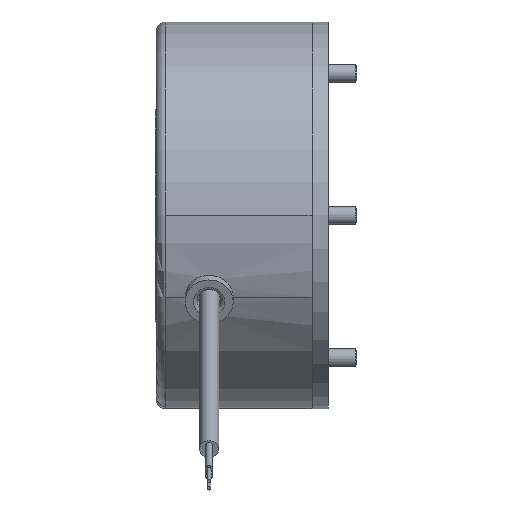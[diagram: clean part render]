
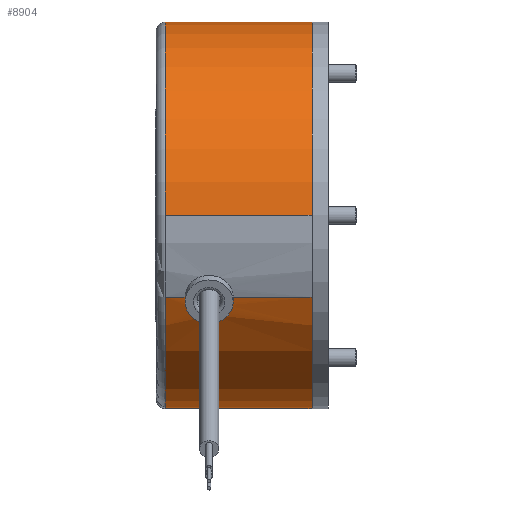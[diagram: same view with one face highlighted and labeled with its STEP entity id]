
A CAD part, front view. The second image highlights one B-rep face of the part: STEP entity #8904.
In plain terms, the highlighted cylindrical face has radius 53 mm (diameter 106 mm), a partial arc.
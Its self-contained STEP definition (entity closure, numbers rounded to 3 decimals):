
#309=B_SPLINE_CURVE_WITH_KNOTS('',3,(#15459,#15460,#15461,#15462,#15463,
#15464,#15465,#15466,#15467,#15468,#15469,#15470,#15471),.UNSPECIFIED.,
 .F.,.F.,(4,1,1,1,1,1,1,1,1,1,4),(-1.74,-1.492,-1.326,
-0.995,-0.746,-0.622,-0.497,
-0.373,-0.249,-0.124,0.),
 .UNSPECIFIED.);
#551=CYLINDRICAL_SURFACE('',#9701,53.);
#1023=CIRCLE('',#9702,53.);
#1024=CIRCLE('',#9703,53.);
#1025=CIRCLE('',#9704,53.);
#1026=CIRCLE('',#9705,53.);
#1027=CIRCLE('',#9706,53.);
#1629=FACE_OUTER_BOUND('',#2126,.T.);
#2126=EDGE_LOOP('',(#6963,#6964,#6965,#6966,#6967,#6968,#6969,#6970,#6971,
#6972,#6973));
#2673=LINE('',#15441,#3083);
#2674=LINE('',#15449,#3084);
#2675=LINE('',#15455,#3085);
#2676=LINE('',#15457,#3086);
#2677=LINE('',#15472,#3087);
#3083=VECTOR('',#11614,53.);
#3084=VECTOR('',#11621,53.);
#3085=VECTOR('',#11626,53.);
#3086=VECTOR('',#11627,10.);
#3087=VECTOR('',#11628,10.);
#3760=VERTEX_POINT('',#15439);
#3761=VERTEX_POINT('',#15440);
#3762=VERTEX_POINT('',#15442);
#3763=VERTEX_POINT('',#15444);
#3764=VERTEX_POINT('',#15446);
#3765=VERTEX_POINT('',#15448);
#3766=VERTEX_POINT('',#15450);
#3767=VERTEX_POINT('',#15452);
#3768=VERTEX_POINT('',#15454);
#3769=VERTEX_POINT('',#15456);
#3770=VERTEX_POINT('',#15458);
#4910=EDGE_CURVE('',#3760,#3761,#2673,.T.);
#4911=EDGE_CURVE('',#3762,#3760,#1023,.T.);
#4912=EDGE_CURVE('',#3763,#3762,#1024,.T.);
#4913=EDGE_CURVE('',#3764,#3763,#1025,.T.);
#4914=EDGE_CURVE('',#3765,#3764,#2674,.T.);
#4915=EDGE_CURVE('',#3766,#3765,#1026,.T.);
#4916=EDGE_CURVE('',#3767,#3766,#1027,.T.);
#4917=EDGE_CURVE('',#3768,#3767,#2675,.T.);
#4918=EDGE_CURVE('',#3769,#3768,#2676,.T.);
#4919=EDGE_CURVE('',#3770,#3769,#309,.T.);
#4920=EDGE_CURVE('',#3761,#3770,#2677,.T.);
#6963=ORIENTED_EDGE('',*,*,#4910,.F.);
#6964=ORIENTED_EDGE('',*,*,#4911,.F.);
#6965=ORIENTED_EDGE('',*,*,#4912,.F.);
#6966=ORIENTED_EDGE('',*,*,#4913,.F.);
#6967=ORIENTED_EDGE('',*,*,#4914,.F.);
#6968=ORIENTED_EDGE('',*,*,#4915,.F.);
#6969=ORIENTED_EDGE('',*,*,#4916,.F.);
#6970=ORIENTED_EDGE('',*,*,#4917,.F.);
#6971=ORIENTED_EDGE('',*,*,#4918,.F.);
#6972=ORIENTED_EDGE('',*,*,#4919,.F.);
#6973=ORIENTED_EDGE('',*,*,#4920,.F.);
#8904=ADVANCED_FACE('',(#1629),#551,.T.);
#9701=AXIS2_PLACEMENT_3D('',#15438,#11612,#11613);
#9702=AXIS2_PLACEMENT_3D('',#15443,#11615,#11616);
#9703=AXIS2_PLACEMENT_3D('',#15445,#11617,#11618);
#9704=AXIS2_PLACEMENT_3D('',#15447,#11619,#11620);
#9705=AXIS2_PLACEMENT_3D('',#15451,#11622,#11623);
#9706=AXIS2_PLACEMENT_3D('',#15453,#11624,#11625);
#11612=DIRECTION('center_axis',(1.,0.,0.));
#11613=DIRECTION('ref_axis',(0.,0.906,0.423));
#11614=DIRECTION('',(1.,0.,0.));
#11615=DIRECTION('center_axis',(-1.,0.,0.));
#11616=DIRECTION('ref_axis',(0.,-1.,0.));
#11617=DIRECTION('center_axis',(-1.,0.,0.));
#11618=DIRECTION('ref_axis',(0.,-1.,0.));
#11619=DIRECTION('center_axis',(-1.,0.,0.));
#11620=DIRECTION('ref_axis',(0.,-1.,0.));
#11621=DIRECTION('',(-1.,0.,0.));
#11622=DIRECTION('center_axis',(1.,0.,0.));
#11623=DIRECTION('ref_axis',(0.,1.,0.));
#11624=DIRECTION('center_axis',(1.,0.,0.));
#11625=DIRECTION('ref_axis',(0.,1.,0.));
#11626=DIRECTION('',(1.,0.,0.));
#11627=DIRECTION('',(1.,0.,0.));
#11628=DIRECTION('',(1.,0.,0.));
#15438=CARTESIAN_POINT('Origin',(-21.35,0.,0.));
#15439=CARTESIAN_POINT('',(-40.2,-48.034,-22.399));
#15440=CARTESIAN_POINT('',(-34.8,-48.034,-22.399));
#15441=CARTESIAN_POINT('',(-21.35,-48.034,-22.399));
#15442=CARTESIAN_POINT('',(-40.2,53.,0.));
#15443=CARTESIAN_POINT('Origin',(-40.2,0.,0.));
#15444=CARTESIAN_POINT('',(-40.2,0.,53.));
#15445=CARTESIAN_POINT('Origin',(-40.2,0.,0.));
#15446=CARTESIAN_POINT('',(-40.2,-53.,0.));
#15447=CARTESIAN_POINT('Origin',(-40.2,0.,0.));
#15448=CARTESIAN_POINT('',(0.,-53.,0.));
#15449=CARTESIAN_POINT('',(-21.35,-53.,0.));
#15450=CARTESIAN_POINT('',(0.,53.,0.));
#15451=CARTESIAN_POINT('Origin',(0.,0.,0.));
#15452=CARTESIAN_POINT('',(0.,-48.034,-22.399));
#15453=CARTESIAN_POINT('Origin',(0.,0.,0.));
#15454=CARTESIAN_POINT('',(-21.6,-48.034,-22.399));
#15455=CARTESIAN_POINT('',(-21.35,-48.034,-22.399));
#15456=CARTESIAN_POINT('',(-22.6,-48.034,-22.399));
#15457=CARTESIAN_POINT('',(-21.35,-48.034,-22.399));
#15458=CARTESIAN_POINT('',(-33.8,-48.034,-22.399));
#15459=CARTESIAN_POINT('Ctrl Pts',(-33.791,-48.031,-22.397));
#15460=CARTESIAN_POINT('Ctrl Pts',(-33.792,-47.671,
-23.171));
#15461=CARTESIAN_POINT('Ctrl Pts',(-33.493,-47.044,
-24.449));
#15462=CARTESIAN_POINT('Ctrl Pts',(-32.049,-46.01,
-26.329));
#15463=CARTESIAN_POINT('Ctrl Pts',(-29.781,-45.318,
-27.485));
#15464=CARTESIAN_POINT('Ctrl Pts',(-27.348,-45.318,
-27.483));
#15465=CARTESIAN_POINT('Ctrl Pts',(-25.71,-45.62,
-26.981));
#15466=CARTESIAN_POINT('Ctrl Pts',(-24.517,-46.019,
-26.298));
#15467=CARTESIAN_POINT('Ctrl Pts',(-23.542,-46.561,-25.329));
#15468=CARTESIAN_POINT('Ctrl Pts',(-22.911,-47.145,
-24.226));
#15469=CARTESIAN_POINT('Ctrl Pts',(-22.628,-47.68,
-23.151));
#15470=CARTESIAN_POINT('Ctrl Pts',(-22.6,-47.915,
-22.654));
#15471=CARTESIAN_POINT('Ctrl Pts',(-22.6,-48.034,
-22.399));
#15472=CARTESIAN_POINT('',(-21.35,-48.034,-22.399));
